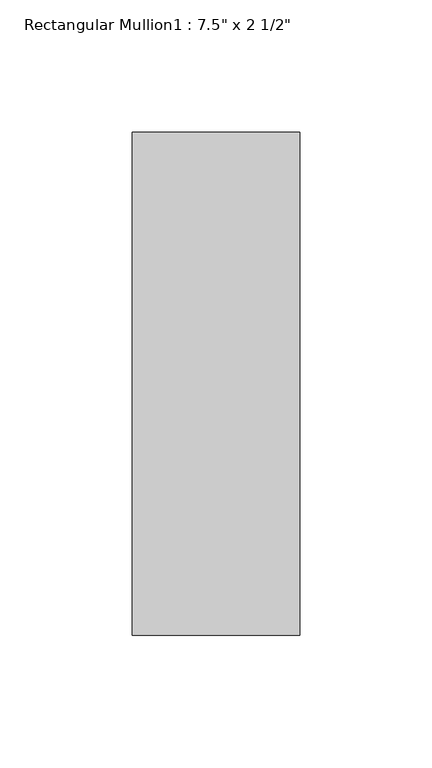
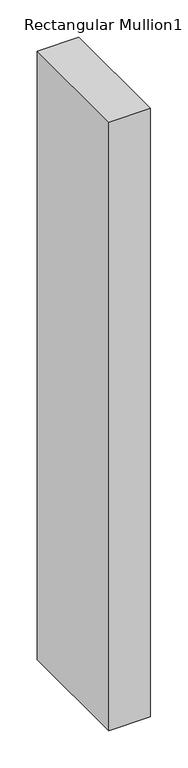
"""IFC4 building model written with IfcOpenShell, lengths in millimetres: member geometry."""

from ifc_helpers import new_model, si_unit, frame, origin, place, context, project, spatial, polyline, outline, extrude, source, transform, mapped, element, save


def member_9925ca39(model_context):
    return source(origin(), model_context, "Body", "SweptSolid", [
        extrude(outline(polyline([(0.0, -165.1), (-63.5, -165.1), (-63.5, 25.4), (0.0, 25.4), (0.0, -165.1)])), frame((0.0, 0.0, -990.6), z_axis=(0.0, 0.0, 1.0), x_axis=(1.0, 0.0, 0.0)), (0.0, 0.0, 1.0), 990.6),
    ])


if __name__ == "__main__":
    model = new_model("IFC4")
    model_context = context("Model", 3, world=origin())
    ifc_project = project(units=[si_unit("LENGTHUNIT", "METRE", prefix="MILLI")], contexts=[model_context])
    site = spatial("IfcSite", under=ifc_project)
    building = spatial("IfcBuilding", under=site)
    placement = place(None, origin())
    member_shape = member_9925ca39(model_context)
    element("IfcMember", 1, ObjectType="Rectangular Mullion1 : 7.5\" x 2 1/2\"", at=placement, inside=building, context=model_context, shape_type="MappedRepresentation", body=[
        mapped(member_shape, transform((0.0, 0.0, 0.0), x_axis=(1.0, 0.0, 0.0), y_axis=(0.0, 1.0, 0.0), z_axis=(0.0, 0.0, 1.0))),
    ])
    save(model, "model.ifc")
